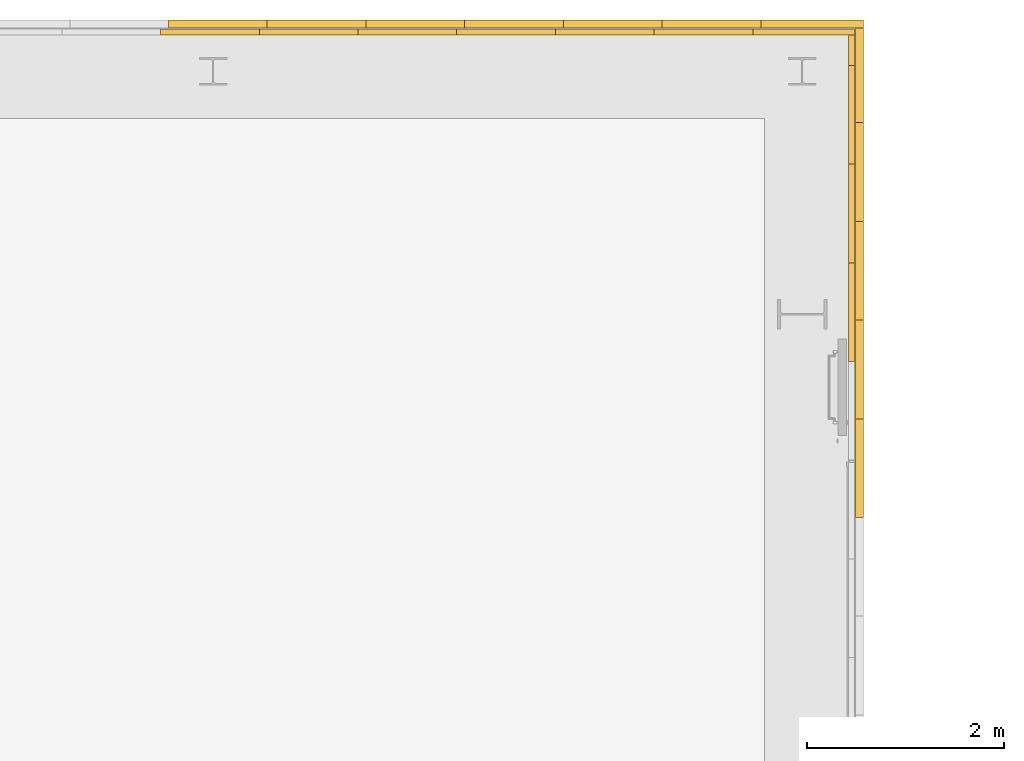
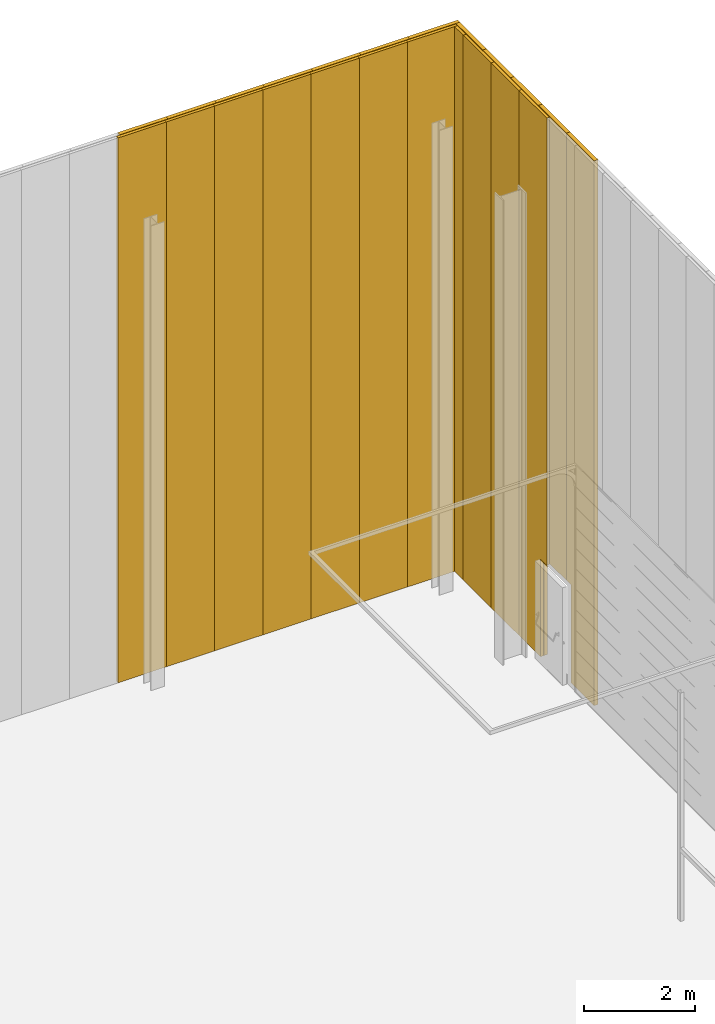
# One storey, part 250 of 302: 23 curtain walls, 3 openings, 4 elements without a shape of their own.
"""IFC2X3 building model written with IfcOpenShell, lengths in metres."""

import ifcopenshell
import ifcopenshell.guid

model = None  # the IFC model being written
_history = None  # IfcOwnerHistory: only IFC2X3 demands one
_inside = {}  # id of a spatial element -> (the spatial element, [elements in it])
_under = {}  # id of a project, library or spatial element -> (it, [spatial elements below it])
_declared = {}  # id of a project -> (the project, [libraries it declares])
_typed = {}  # id of a type object -> (the type object, [elements of that type])
_made_of = {}  # id of a material, layer set ... -> (it, [elements and type objects made of it])


def new_model(schema):
    """Start an empty IFC model of exactly this schema.

    Asked for "IFC4X3", IfcOpenShell would pick the latest addendum, in which some entities
    have other attributes; the version numbers below select the first issue.
    IFC2X3 requires an IfcOwnerHistory on every rooted entity: one is made here for all.
    """
    global model, _history
    if schema == "IFC4X3":
        model = ifcopenshell.file(schema_version=(4, 3, 0, 0))
    else:
        model = ifcopenshell.file(schema=schema)
    _inside.clear()
    _under.clear()
    _declared.clear()
    _typed.clear()
    _made_of.clear()
    _history = None
    if model.schema == "IFC2X3":
        org = make("IfcOrganization", Name="unknown")
        user = make(
            "IfcPersonAndOrganization",
            ThePerson=make("IfcPerson", FamilyName="unknown"),
            TheOrganization=org,
        )
        app = make(
            "IfcApplication",
            ApplicationDeveloper=org,
            Version="unknown",
            ApplicationFullName="unknown",
            ApplicationIdentifier="unknown",
        )
        _history = make(
            "IfcOwnerHistory",
            OwningUser=user,
            OwningApplication=app,
            ChangeAction="ADDED",
            CreationDate=0,
        )
    return model


def make(cls, **values):
    """One entity of the class cls with the attributes given. An attribute that is None is left unset."""
    return model.create_entity(
        cls, **{name: value for name, value in values.items() if value is not None}
    )


def entity(cls, *values):
    """Any entity or typed value of the class cls, its attributes in the order of the schema. None: left unset."""
    e = model.create_entity(cls)
    for i, value in enumerate(values):
        if value is not None:
            e[i] = value
    return e


def rooted(cls, **values):
    """An entity with a GlobalId (a new one), such as an element, a storey or a relation."""
    return make(cls, GlobalId=ifcopenshell.guid.new(), OwnerHistory=_history, **values)


def si_unit(unit_type, name, prefix=None):
    """IfcSIUnit, for example si_unit("LENGTHUNIT", "METRE", prefix="MILLI")."""
    return make("IfcSIUnit", UnitType=unit_type, Prefix=prefix, Name=name)


def converted_unit(unit_type, name, factor, base, dimensions=None, offset=None):
    """IfcConversionBasedUnit, such as the inch: factor (a typed value) times the base unit."""
    return make(
        "IfcConversionBasedUnit"
        if offset is None
        else "IfcConversionBasedUnitWithOffset",
        ConversionOffset=offset,
        Dimensions=None
        if dimensions is None
        else entity("IfcDimensionalExponents", *dimensions),
        UnitType=unit_type,
        Name=name,
        ConversionFactor=make(
            "IfcMeasureWithUnit", ValueComponent=factor, UnitComponent=base
        ),
    )


def derived_unit(unit_type, elements):
    """IfcDerivedUnit: a product of units, each with its exponent."""
    return make(
        "IfcDerivedUnit",
        Elements=[
            make("IfcDerivedUnitElement", Unit=unit, Exponent=power)
            for unit, power in elements
        ],
        UnitType=unit_type,
    )


def assignment(units):
    """IfcUnitAssignment: the units of a project."""
    return None if units is None else make("IfcUnitAssignment", Units=units)


def point(xyz):
    """IfcCartesianPoint."""
    return None if xyz is None else make("IfcCartesianPoint", Coordinates=xyz)


def direction(xyz):
    """IfcDirection."""
    return None if xyz is None else make("IfcDirection", DirectionRatios=xyz)


def frame(location, z_axis=None, x_axis=None):
    """IfcAxis2Placement3D, a coordinate frame: its origin and axes. An axis left out is left unset."""
    return make(
        "IfcAxis2Placement3D",
        Location=point(location),
        Axis=direction(z_axis),
        RefDirection=direction(x_axis),
    )


def frame_2d(location, x_axis=None):
    """IfcAxis2Placement2D, a coordinate frame in the plane: its origin and x axis."""
    return make(
        "IfcAxis2Placement2D", Location=point(location), RefDirection=direction(x_axis)
    )


def origin():
    """The frame at (0, 0, 0) with its axes left unset."""
    return frame((0.0, 0.0, 0.0))


def place(relative_to, where):
    """IfcLocalPlacement: puts the frame where relative to a parent placement (None: the world)."""
    return make(
        "IfcLocalPlacement", PlacementRelTo=relative_to, RelativePlacement=where
    )


def context(
    kind, dimensions, precision=None, world=None, true_north=None, identifier=None
):
    """IfcGeometricRepresentationContext, for example the 3D "Model" context."""
    return make(
        "IfcGeometricRepresentationContext",
        ContextIdentifier=identifier,
        ContextType=kind,
        CoordinateSpaceDimension=dimensions,
        Precision=precision,
        WorldCoordinateSystem=world,
        TrueNorth=true_north,
    )


def subcontext(parent, identifier, kind, view, scale=None):
    """IfcGeometricRepresentationSubContext, for example "Body" below "Model"."""
    return make(
        "IfcGeometricRepresentationSubContext",
        ContextIdentifier=identifier,
        ContextType=kind,
        ParentContext=parent,
        TargetScale=scale,
        TargetView=view,
    )


def project(units=None, contexts=None):
    """IfcProject with its units and contexts."""
    return rooted(
        "IfcProject",
        Name="project",
        RepresentationContexts=contexts,
        UnitsInContext=assignment(units),
    )


def spatial(cls, under=None, at=None, **own):
    """A site, building, storey or space (cls), placed at a placement, below another one or the project."""
    s = rooted(cls, ObjectPlacement=at, **own)
    if under is not None:
        _under.setdefault(under.id(), (under, []))[1].append(s)
    return s


def profile(cls, at=None, kind="AREA", **sizes):
    """A parametric profile (cls). Its sizes go by their IFC names, for example OverallWidth=200.0."""
    return make(cls, ProfileType=kind, Position=at, **sizes)


def rectangle(**sizes):
    """IfcRectangleProfileDef."""
    return profile("IfcRectangleProfileDef", **sizes)


def extrude(swept, where, along, depth):
    """IfcExtrudedAreaSolid: the profile swept, set in the frame where, extruded along a direction by depth."""
    return make(
        "IfcExtrudedAreaSolid",
        SweptArea=swept,
        Position=where,
        ExtrudedDirection=direction(along),
        Depth=depth,
    )


def shape(context_of_items, identifier, shape_type, items):
    """IfcShapeRepresentation: the items that make up one representation, for example the "Body"."""
    return make(
        "IfcShapeRepresentation",
        ContextOfItems=context_of_items,
        RepresentationIdentifier=identifier,
        RepresentationType=shape_type,
        Items=items,
    )


def material(Name=None, Category=None):
    """IfcMaterial."""
    return make("IfcMaterial", Name=Name, Category=Category)


def layer(
    of_material, thickness, ventilated=None, Name=None, Category=None, Priority=None
):
    """IfcMaterialLayer: one layer of a wall or slab, of a material (None: an air gap)."""
    return make(
        "IfcMaterialLayer",
        Material=of_material,
        LayerThickness=thickness,
        IsVentilated=ventilated,
        Name=Name,
        Category=Category,
        Priority=Priority,
    )


def layer_set(layers, Name=None):
    """IfcMaterialLayerSet."""
    return make("IfcMaterialLayerSet", MaterialLayers=layers, LayerSetName=Name)


def layer_usage(for_layer_set, set_direction, sense, offset, extent=None):
    """IfcMaterialLayerSetUsage: how a layer set lies in its element."""
    return make(
        "IfcMaterialLayerSetUsage",
        ForLayerSet=for_layer_set,
        LayerSetDirection=set_direction,
        DirectionSense=sense,
        OffsetFromReferenceLine=offset,
        ReferenceExtent=extent,
    )


def made_of(thing, what):
    """Note that an element or type object is made of a material, layer set ...; save() writes the relation."""
    if what is not None:
        _made_of.setdefault(what.id(), (what, []))[1].append(thing)
    return thing


def type_object(cls, material=None, **own):
    """A type object (cls), such as IfcWallType, which elements share."""
    return made_of(rooted(cls, **own), material)


def element(
    cls,
    number,
    at=None,
    inside=None,
    cuts=None,
    type_object=None,
    material=None,
    context=None,
    identifier="Body",
    shape_type=None,
    held_by="IfcProductDefinitionShape",
    body=None,
    shapes=None,
    **own,
):
    """One element of the class cls, such as IfcWall. Its Tag is "e" and its number.

    at: its placement. inside: the storey or other place that contains it. cuts: it is an
    opening in that element (IfcRelVoidsElement). A single representation is given by context,
    identifier, shape_type and body (its items); several are given by shapes. held_by: the class
    of the entity that holds the representations. save() writes the other relations.
    """
    e = rooted(cls, Tag="e%d" % number, ObjectPlacement=at, **own)
    if body is not None:
        shapes = [shape(context, identifier, shape_type, body)]
    if shapes is not None:
        e.Representation = make(held_by, Representations=shapes)
    if inside is not None:
        _inside.setdefault(inside.id(), (inside, []))[1].append(e)
    if cuts is not None:
        rooted(
            "IfcRelVoidsElement", RelatingBuildingElement=cuts, RelatedOpeningElement=e
        )
    if type_object is not None:
        _typed.setdefault(type_object.id(), (type_object, []))[1].append(e)
    return made_of(e, material)


def aggregate(whole, parts):
    """IfcRelAggregates: a whole, such as a stair, and the parts it consists of."""
    return rooted("IfcRelAggregates", RelatingObject=whole, RelatedObjects=parts)


def save(model, path):
    """Write the relations noted so far, then the file.

    IfcRelAggregates (storeys below a building ...), IfcRelContainedInSpatialStructure (elements
    in a storey), IfcRelDefinesByType, IfcRelAssociatesMaterial and IfcRelDeclares: one each for
    every whole, place, type object, material and project.
    """
    for whole, parts in _under.values():
        aggregate(whole, parts)
    for where, things in _inside.values():
        rooted(
            "IfcRelContainedInSpatialStructure",
            RelatedElements=things,
            RelatingStructure=where,
        )
    for kind, things in _typed.values():
        rooted("IfcRelDefinesByType", RelatedObjects=things, RelatingType=kind)
    for what, things in _made_of.values():
        rooted("IfcRelAssociatesMaterial", RelatedObjects=things, RelatingMaterial=what)
    for by, libraries in _declared.values():
        rooted("IfcRelDeclares", RelatingContext=by, RelatedDefinitions=libraries)
    model.write(path)


model = new_model("IFC2X3")

# Units and contexts
model_context = context("Model", 3, precision=1e-05, world=origin(), true_north=direction((6.12303176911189e-17, 1.0)))
body_context = subcontext(model_context, "Body", "Model", "MODEL_VIEW")
ifc_project = project(units=[si_unit("LENGTHUNIT", "METRE"), si_unit("AREAUNIT", "SQUARE_METRE"), si_unit("VOLUMEUNIT", "CUBIC_METRE"), converted_unit("PLANEANGLEUNIT", "DEGREE", entity("IfcRatioMeasure", 0.0174532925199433), si_unit("PLANEANGLEUNIT", "RADIAN"), dimensions=[0, 0, 0, 0, 0, 0, 0]), si_unit("MASSUNIT", "GRAM", prefix="KILO"), derived_unit("MASSDENSITYUNIT", [(si_unit("MASSUNIT", "GRAM", prefix="KILO"), 1), (si_unit("LENGTHUNIT", "METRE"), -3)]), derived_unit("MOMENTOFINERTIAUNIT", [(si_unit("LENGTHUNIT", "METRE"), 4)]), si_unit("TIMEUNIT", "SECOND"), si_unit("FREQUENCYUNIT", "HERTZ"), si_unit("THERMODYNAMICTEMPERATUREUNIT", "DEGREE_CELSIUS"), derived_unit("THERMALTRANSMITTANCEUNIT", [(si_unit("MASSUNIT", "GRAM", prefix="KILO"), 1), (si_unit("THERMODYNAMICTEMPERATUREUNIT", "KELVIN"), -1), (si_unit("TIMEUNIT", "SECOND"), -3)]), derived_unit("VOLUMETRICFLOWRATEUNIT", [(si_unit("LENGTHUNIT", "METRE"), 3), (si_unit("TIMEUNIT", "SECOND"), -1)]), si_unit("ELECTRICCURRENTUNIT", "AMPERE"), si_unit("ELECTRICVOLTAGEUNIT", "VOLT"), si_unit("POWERUNIT", "WATT"), si_unit("FORCEUNIT", "NEWTON", prefix="KILO"), si_unit("ILLUMINANCEUNIT", "LUX"), si_unit("LUMINOUSFLUXUNIT", "LUMEN"), si_unit("LUMINOUSINTENSITYUNIT", "CANDELA"), derived_unit("USERDEFINED", [(si_unit("MASSUNIT", "GRAM", prefix="KILO"), -1), (si_unit("LENGTHUNIT", "METRE"), -2), (si_unit("TIMEUNIT", "SECOND"), 3), (si_unit("LUMINOUSFLUXUNIT", "LUMEN"), 1)]), derived_unit("LINEARVELOCITYUNIT", [(si_unit("LENGTHUNIT", "METRE"), 1), (si_unit("TIMEUNIT", "SECOND"), -1)]), si_unit("PRESSUREUNIT", "PASCAL"), derived_unit("USERDEFINED", [(si_unit("LENGTHUNIT", "METRE"), -2), (si_unit("MASSUNIT", "GRAM", prefix="KILO"), 1), (si_unit("TIMEUNIT", "SECOND"), -2)]), derived_unit("LINEARFORCEUNIT", [(si_unit("MASSUNIT", "GRAM", prefix="KILO"), 1), (si_unit("LENGTHUNIT", "METRE"), 1), (si_unit("TIMEUNIT", "SECOND"), -2), (si_unit("LENGTHUNIT", "METRE"), -1)]), derived_unit("PLANARFORCEUNIT", [(si_unit("MASSUNIT", "GRAM", prefix="KILO"), 1), (si_unit("LENGTHUNIT", "METRE"), 1), (si_unit("TIMEUNIT", "SECOND"), -2), (si_unit("LENGTHUNIT", "METRE"), -2)])], contexts=[model_context])

# Site, building, storey
site_placement = place(None, origin())
site = spatial("IfcSite", under=ifc_project, at=site_placement, Name="Default", CompositionType="ELEMENT")
building_placement = place(site_placement, origin())
building = spatial("IfcBuilding", under=site, at=building_placement, CompositionType="ELEMENT")
storey_placement = place(building_placement, frame((0.0, 0.0, -1.3)))
storey = spatial("IfcBuildingStorey", under=building, at=storey_placement, Name="00_EG", CompositionType="ELEMENT", Elevation=-1.3)

# Curtain walls
curtain_wall_type_1 = type_object("IfcCurtainWallType", PredefinedType="NOTDEFINED")
curtain_wall_1_placement = place(storey_placement, frame((0.0, 0.0, 1.3)))
curtain_wall_1 = element("IfcCurtainWall", 1, at=curtain_wall_1_placement, inside=storey, type_object=curtain_wall_type_1)
ifc_material_1 = material(Name="Prepainted_Steel-ArcelorMittal_Construction_HAIRULTRA-35-CORAL-4309-[RAL_3000]")
ifc_layer_1 = layer(ifc_material_1, 0.01)
ifc_material_2 = material(Name="ArcelorMittal-MineralWool")
ifc_layer_2 = layer(ifc_material_2, 0.06)
ifc_layer_3 = layer(ifc_material_1, 0.01)
ifc_layer_set_1 = layer_set([ifc_layer_1, ifc_layer_2, ifc_layer_3], Name="Fassade:Sandwichpaneele Gebäude B 80mm")
ifc_layer_usage_1 = layer_usage(ifc_layer_set_1, "AXIS2", "NEGATIVE", 0.04)
curtain_wall_type_2 = type_object("IfcCurtainWallType", Name="Basiswand:Sandwichpaneele d = 8cm aussen", PredefinedType="NOTDEFINED", material=ifc_layer_set_1)
curtain_wall_2_placement = place(storey_placement, frame((-177.270111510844, 76.168088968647, 1.27), z_axis=(0.0, 0.0, 1.0), x_axis=(-1.0, 0.0, 0.0)))
curtain_wall_2 = element("IfcCurtainWall", 2, at=curtain_wall_2_placement, type_object=curtain_wall_type_2, material=ifc_layer_usage_1, Name="Basiswand:Sandwichpaneele d = 8cm aussen", ObjectType="Basiswand:Sandwichpaneele d = 8cm aussen", context=body_context, shape_type="SweptSolid", body=[
    extrude(rectangle(XDim=1.04000000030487, YDim=0.0799999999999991, at=frame_2d((0.520000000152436, 0.0), x_axis=(-1.0, 0.0))), origin(), (0.0, 0.0, 1.0), 11.9314),
])
ifc_layer_usage_2 = layer_usage(ifc_layer_set_1, "AXIS2", "NEGATIVE", 0.04)
curtain_wall_3_placement = place(storey_placement, frame((-178.310111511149, 76.168088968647, 1.27), z_axis=(0.0, 0.0, 1.0), x_axis=(-1.0, 0.0, 0.0)))
curtain_wall_3 = element("IfcCurtainWall", 3, at=curtain_wall_3_placement, type_object=curtain_wall_type_2, material=ifc_layer_usage_2, Name="Basiswand:Sandwichpaneele d = 8cm aussen", ObjectType="Basiswand:Sandwichpaneele d = 8cm aussen", context=body_context, shape_type="SweptSolid", body=[
    extrude(rectangle(XDim=0.999999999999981, YDim=0.0799999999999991, at=frame_2d((0.49999999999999, 0.0), x_axis=(-1.0, 0.0))), origin(), (0.0, 0.0, 1.0), 11.9314),
])
ifc_layer_usage_3 = layer_usage(ifc_layer_set_1, "AXIS2", "NEGATIVE", 0.04)
curtain_wall_4_placement = place(storey_placement, frame((-179.310111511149, 76.168088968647, 1.27), z_axis=(0.0, 0.0, 1.0), x_axis=(-1.0, 0.0, 0.0)))
curtain_wall_4 = element("IfcCurtainWall", 4, at=curtain_wall_4_placement, type_object=curtain_wall_type_2, material=ifc_layer_usage_3, Name="Basiswand:Sandwichpaneele d = 8cm aussen", ObjectType="Basiswand:Sandwichpaneele d = 8cm aussen", context=body_context, shape_type="SweptSolid", body=[
    extrude(rectangle(XDim=1.00000000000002, YDim=0.0799999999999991, at=frame_2d((0.500000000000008, 0.0), x_axis=(-1.0, 0.0))), origin(), (0.0, 0.0, 1.0), 11.9314),
])
ifc_layer_usage_4 = layer_usage(ifc_layer_set_1, "AXIS2", "NEGATIVE", 0.04)
curtain_wall_5_placement = place(storey_placement, frame((-180.310111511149, 76.168088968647, 1.27), z_axis=(0.0, 0.0, 1.0), x_axis=(-1.0, 0.0, 0.0)))
curtain_wall_5 = element("IfcCurtainWall", 5, at=curtain_wall_5_placement, type_object=curtain_wall_type_2, material=ifc_layer_usage_4, Name="Basiswand:Sandwichpaneele d = 8cm aussen", ObjectType="Basiswand:Sandwichpaneele d = 8cm aussen", context=body_context, shape_type="SweptSolid", body=[
    extrude(rectangle(XDim=0.999999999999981, YDim=0.0799999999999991, at=frame_2d((0.49999999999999, 0.0), x_axis=(-1.0, 0.0))), origin(), (0.0, 0.0, 1.0), 11.9314),
])
ifc_layer_usage_5 = layer_usage(ifc_layer_set_1, "AXIS2", "NEGATIVE", 0.04)
curtain_wall_6_placement = place(storey_placement, frame((-181.310111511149, 76.168088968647, 1.27), z_axis=(0.0, 0.0, 1.0), x_axis=(-1.0, 0.0, 0.0)))
curtain_wall_6 = element("IfcCurtainWall", 6, at=curtain_wall_6_placement, type_object=curtain_wall_type_2, material=ifc_layer_usage_5, Name="Basiswand:Sandwichpaneele d = 8cm aussen", ObjectType="Basiswand:Sandwichpaneele d = 8cm aussen", context=body_context, shape_type="SweptSolid", body=[
    extrude(rectangle(XDim=1.00000000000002, YDim=0.0799999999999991, at=frame_2d((0.500000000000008, 0.0), x_axis=(-1.0, 0.0))), origin(), (0.0, 0.0, 1.0), 11.9314),
])
ifc_layer_usage_6 = layer_usage(ifc_layer_set_1, "AXIS2", "NEGATIVE", 0.04)
curtain_wall_7_placement = place(storey_placement, frame((-182.310111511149, 76.168088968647, 1.27), z_axis=(0.0, 0.0, 1.0), x_axis=(-1.0, 0.0, 0.0)))
curtain_wall_7 = element("IfcCurtainWall", 7, at=curtain_wall_7_placement, type_object=curtain_wall_type_2, material=ifc_layer_usage_6, Name="Basiswand:Sandwichpaneele d = 8cm aussen", ObjectType="Basiswand:Sandwichpaneele d = 8cm aussen", context=body_context, shape_type="SweptSolid", body=[
    extrude(rectangle(XDim=0.999999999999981, YDim=0.0799999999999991, at=frame_2d((0.49999999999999, 0.0), x_axis=(-1.0, 0.0))), origin(), (0.0, 0.0, 1.0), 11.9314),
])
ifc_layer_usage_7 = layer_usage(ifc_layer_set_1, "AXIS2", "NEGATIVE", 0.04)
curtain_wall_8_placement = place(storey_placement, frame((-183.310111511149, 76.168088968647, 1.27), z_axis=(0.0, 0.0, 1.0), x_axis=(-1.0, 0.0, 0.0)))
curtain_wall_8 = element("IfcCurtainWall", 8, at=curtain_wall_8_placement, type_object=curtain_wall_type_2, material=ifc_layer_usage_7, Name="Basiswand:Sandwichpaneele d = 8cm aussen", ObjectType="Basiswand:Sandwichpaneele d = 8cm aussen", context=body_context, shape_type="SweptSolid", body=[
    extrude(rectangle(XDim=1.00000000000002, YDim=0.0799999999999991, at=frame_2d((0.500000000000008, 0.0), x_axis=(-1.0, 0.0))), origin(), (0.0, 0.0, 1.0), 11.9314),
])
aggregate(curtain_wall_1, [curtain_wall_2, curtain_wall_3, curtain_wall_4, curtain_wall_5, curtain_wall_6, curtain_wall_7, curtain_wall_8])

# Curtain walls, openings
curtain_wall_9_placement = place(storey_placement, frame((0.0, 0.0, 1.3)))
curtain_wall_9 = element("IfcCurtainWall", 9, at=curtain_wall_9_placement, inside=storey, type_object=curtain_wall_type_1)
ifc_layer_usage_8 = layer_usage(ifc_layer_set_1, "AXIS2", "POSITIVE", -0.04)
curtain_wall_10_placement = place(storey_placement, frame((-177.310111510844, 76.128088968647, 1.27), z_axis=(0.0, 0.0, 1.0), x_axis=(0.0, -1.0, 0.0)))
curtain_wall_10 = element("IfcCurtainWall", 10, at=curtain_wall_10_placement, type_object=curtain_wall_type_2, material=ifc_layer_usage_8, Name="Basiswand:Sandwichpaneele d = 8cm aussen", ObjectType="Basiswand:Sandwichpaneele d = 8cm aussen", context=body_context, shape_type="SweptSolid", body=[
    extrude(rectangle(XDim=0.960000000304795, YDim=0.0799999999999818, at=frame_2d((0.480000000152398, 0.0), x_axis=(-1.0, 0.0))), origin(), (0.0, 0.0, 1.0), 11.9314),
])
ifc_layer_usage_9 = layer_usage(ifc_layer_set_1, "AXIS2", "POSITIVE", -0.04)
curtain_wall_11_placement = place(storey_placement, frame((-177.310111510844, 75.1680889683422, 1.27), z_axis=(0.0, 0.0, 1.0), x_axis=(0.0, -1.0, 0.0)))
curtain_wall_11 = element("IfcCurtainWall", 11, at=curtain_wall_11_placement, type_object=curtain_wall_type_2, material=ifc_layer_usage_9, Name="Basiswand:Sandwichpaneele d = 8cm aussen", ObjectType="Basiswand:Sandwichpaneele d = 8cm aussen", context=body_context, shape_type="SweptSolid", body=[
    extrude(rectangle(XDim=0.999999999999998, YDim=0.0799999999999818, at=frame_2d((0.499999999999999, 0.0), x_axis=(-1.0, 0.0))), origin(), (0.0, 0.0, 1.0), 11.9314),
])
ifc_layer_usage_10 = layer_usage(ifc_layer_set_1, "AXIS2", "POSITIVE", -0.04)
curtain_wall_12_placement = place(storey_placement, frame((-177.310111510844, 74.1680889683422, 1.27), z_axis=(0.0, 0.0, 1.0), x_axis=(0.0, -1.0, 0.0)))
curtain_wall_12 = element("IfcCurtainWall", 12, at=curtain_wall_12_placement, type_object=curtain_wall_type_2, material=ifc_layer_usage_10, Name="Basiswand:Sandwichpaneele d = 8cm aussen", ObjectType="Basiswand:Sandwichpaneele d = 8cm aussen", context=body_context, shape_type="SweptSolid", body=[
    extrude(rectangle(XDim=1.00000000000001, YDim=0.0799999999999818, at=frame_2d((0.500000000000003, 0.0), x_axis=(-1.0, 0.0))), origin(), (0.0, 0.0, 1.0), 11.9314),
])
ifc_layer_usage_11 = layer_usage(ifc_layer_set_1, "AXIS2", "POSITIVE", -0.04)
curtain_wall_13_placement = place(storey_placement, frame((-177.310111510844, 73.1680889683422, 1.27), z_axis=(0.0, 0.0, 1.0), x_axis=(0.0, -1.0, 0.0)))
curtain_wall_13 = element("IfcCurtainWall", 13, at=curtain_wall_13_placement, type_object=curtain_wall_type_2, material=ifc_layer_usage_11, Name="Basiswand:Sandwichpaneele d = 8cm aussen", ObjectType="Basiswand:Sandwichpaneele d = 8cm aussen", context=body_context, shape_type="SweptSolid", body=[
    extrude(rectangle(XDim=0.999999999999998, YDim=0.0799999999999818, at=frame_2d((0.499999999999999, 0.0), x_axis=(-1.0, 0.0))), origin(), (0.0, 0.0, 1.0), 11.9314),
])
opening_1_placement = place(curtain_wall_13_placement, origin())
opening_1 = element("IfcOpeningElement", 14, at=opening_1_placement, cuts=curtain_wall_13, Name="Basiswand:Sandwichpaneele d = 8cm aussen", ObjectType="Opening", context=body_context, shape_type="SweptSolid", body=[
    extrude(rectangle(XDim=2.16999999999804, YDim=0.980000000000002, at=frame_2d((0.0, 8.65973959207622e-15), x_axis=(1.0, 0.0))), frame((0.679999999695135, -0.129999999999, 1.054999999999), z_axis=(0.0, 1.0, 0.0), x_axis=(0.0, 0.0, -1.0)), (0.0, 0.0, 1.0), 0.169999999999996),
])
ifc_layer_usage_12 = layer_usage(ifc_layer_set_1, "AXIS2", "POSITIVE", -0.04)
curtain_wall_14_placement = place(storey_placement, frame((-177.310111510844, 72.1680889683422, 1.27), z_axis=(0.0, 0.0, 1.0), x_axis=(0.0, -1.0, 0.0)))
curtain_wall_14 = element("IfcCurtainWall", 15, at=curtain_wall_14_placement, type_object=curtain_wall_type_2, material=ifc_layer_usage_12, Name="Basiswand:Sandwichpaneele d = 8cm aussen", ObjectType="Basiswand:Sandwichpaneele d = 8cm aussen", context=body_context, shape_type="SweptSolid", body=[
    extrude(rectangle(XDim=0.999999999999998, YDim=0.0799999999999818, at=frame_2d((0.499999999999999, 0.0), x_axis=(-1.0, 0.0))), origin(), (0.0, 0.0, 1.0), 11.9314),
])
opening_2_placement = place(curtain_wall_14_placement, origin())
opening_2 = element("IfcOpeningElement", 16, at=opening_2_placement, cuts=curtain_wall_14, Name="Basiswand:Sandwichpaneele d = 8cm aussen", ObjectType="Opening", context=body_context, shape_type="SweptSolid", body=[
    extrude(rectangle(XDim=2.16999999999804, YDim=0.980000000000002, at=frame_2d((0.0, 8.65973959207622e-15), x_axis=(1.0, 0.0))), frame((-0.320000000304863, -0.129999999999, 1.054999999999), z_axis=(0.0, 1.0, 0.0), x_axis=(0.0, 0.0, -1.0)), (0.0, 0.0, 1.0), 0.169999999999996),
])
aggregate(curtain_wall_9, [curtain_wall_10, curtain_wall_11, curtain_wall_12, curtain_wall_13, opening_1, curtain_wall_14, opening_2])

# Curtain walls
curtain_wall_type_3 = type_object("IfcCurtainWallType", PredefinedType="NOTDEFINED")
curtain_wall_15_placement = place(storey_placement, frame((0.0, 0.0, 1.3)))
curtain_wall_15 = element("IfcCurtainWall", 17, at=curtain_wall_15_placement, inside=storey, type_object=curtain_wall_type_3)
ifc_layer_4 = layer(ifc_material_1, 0.01)
ifc_layer_5 = layer(ifc_material_2, 0.04)
ifc_layer_6 = layer(ifc_material_1, 0.01)
ifc_layer_set_2 = layer_set([ifc_layer_4, ifc_layer_5, ifc_layer_6], Name="Fassade:Sandwichpaneele Gebäude B 60mm")
ifc_layer_usage_13 = layer_usage(ifc_layer_set_2, "AXIS2", "NEGATIVE", 0.03)
curtain_wall_type_4 = type_object("IfcCurtainWallType", Name="Basiswand:Sandwichpaneele d = 6cm aussen", PredefinedType="NOTDEFINED", material=ifc_layer_set_2)
curtain_wall_16_placement = place(storey_placement, frame((-177.360111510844, 76.088088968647, 1.27), z_axis=(0.0, 0.0, 1.0), x_axis=(-1.0, 0.0, 0.0)))
curtain_wall_16 = element("IfcCurtainWall", 18, at=curtain_wall_16_placement, type_object=curtain_wall_type_4, material=ifc_layer_usage_13, Name="Basiswand:Sandwichpaneele d = 6cm aussen", ObjectType="Basiswand:Sandwichpaneele d = 6cm aussen", context=body_context, shape_type="SweptSolid", body=[
    extrude(rectangle(XDim=1.03000000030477, YDim=0.0600000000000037, at=frame_2d((0.515000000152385, 2.98372437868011e-16), x_axis=(-1.0, 0.0))), origin(), (0.0, 0.0, 1.0), 11.9314),
])
ifc_layer_usage_14 = layer_usage(ifc_layer_set_2, "AXIS2", "NEGATIVE", 0.03)
curtain_wall_17_placement = place(storey_placement, frame((-178.390111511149, 76.088088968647, 1.27), z_axis=(0.0, 0.0, 1.0), x_axis=(-1.0, 0.0, 0.0)))
curtain_wall_17 = element("IfcCurtainWall", 19, at=curtain_wall_17_placement, type_object=curtain_wall_type_4, material=ifc_layer_usage_14, Name="Basiswand:Sandwichpaneele d = 6cm aussen", ObjectType="Basiswand:Sandwichpaneele d = 6cm aussen", context=body_context, shape_type="SweptSolid", body=[
    extrude(rectangle(XDim=0.999999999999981, YDim=0.0600000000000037, at=frame_2d((0.49999999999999, 2.89698820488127e-16), x_axis=(-1.0, 0.0))), origin(), (0.0, 0.0, 1.0), 11.9314),
])
ifc_layer_usage_15 = layer_usage(ifc_layer_set_2, "AXIS2", "NEGATIVE", 0.03)
curtain_wall_18_placement = place(storey_placement, frame((-179.390111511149, 76.088088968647, 1.27), z_axis=(0.0, 0.0, 1.0), x_axis=(-1.0, 0.0, 0.0)))
curtain_wall_18 = element("IfcCurtainWall", 20, at=curtain_wall_18_placement, type_object=curtain_wall_type_4, material=ifc_layer_usage_15, Name="Basiswand:Sandwichpaneele d = 6cm aussen", ObjectType="Basiswand:Sandwichpaneele d = 6cm aussen", context=body_context, shape_type="SweptSolid", body=[
    extrude(rectangle(XDim=1.00000000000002, YDim=0.0600000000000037, at=frame_2d((0.500000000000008, 2.89698820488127e-16), x_axis=(-1.0, 0.0))), origin(), (0.0, 0.0, 1.0), 11.9314),
])
ifc_layer_usage_16 = layer_usage(ifc_layer_set_2, "AXIS2", "NEGATIVE", 0.03)
curtain_wall_19_placement = place(storey_placement, frame((-180.390111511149, 76.088088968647, 1.27), z_axis=(0.0, 0.0, 1.0), x_axis=(-1.0, 0.0, 0.0)))
curtain_wall_19 = element("IfcCurtainWall", 21, at=curtain_wall_19_placement, type_object=curtain_wall_type_4, material=ifc_layer_usage_16, Name="Basiswand:Sandwichpaneele d = 6cm aussen", ObjectType="Basiswand:Sandwichpaneele d = 6cm aussen", context=body_context, shape_type="SweptSolid", body=[
    extrude(rectangle(XDim=0.999999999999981, YDim=0.0600000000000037, at=frame_2d((0.49999999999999, 2.89698820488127e-16), x_axis=(-1.0, 0.0))), origin(), (0.0, 0.0, 1.0), 11.9314),
])
ifc_layer_usage_17 = layer_usage(ifc_layer_set_2, "AXIS2", "NEGATIVE", 0.03)
curtain_wall_20_placement = place(storey_placement, frame((-181.390111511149, 76.088088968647, 1.27), z_axis=(0.0, 0.0, 1.0), x_axis=(-1.0, 0.0, 0.0)))
curtain_wall_20 = element("IfcCurtainWall", 22, at=curtain_wall_20_placement, type_object=curtain_wall_type_4, material=ifc_layer_usage_17, Name="Basiswand:Sandwichpaneele d = 6cm aussen", ObjectType="Basiswand:Sandwichpaneele d = 6cm aussen", context=body_context, shape_type="SweptSolid", body=[
    extrude(rectangle(XDim=1.00000000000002, YDim=0.0600000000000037, at=frame_2d((0.500000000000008, 2.89698820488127e-16), x_axis=(-1.0, 0.0))), origin(), (0.0, 0.0, 1.0), 11.9314),
])
ifc_layer_usage_18 = layer_usage(ifc_layer_set_2, "AXIS2", "NEGATIVE", 0.03)
curtain_wall_21_placement = place(storey_placement, frame((-182.390111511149, 76.088088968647, 1.27), z_axis=(0.0, 0.0, 1.0), x_axis=(-1.0, 0.0, 0.0)))
curtain_wall_21 = element("IfcCurtainWall", 23, at=curtain_wall_21_placement, type_object=curtain_wall_type_4, material=ifc_layer_usage_18, Name="Basiswand:Sandwichpaneele d = 6cm aussen", ObjectType="Basiswand:Sandwichpaneele d = 6cm aussen", context=body_context, shape_type="SweptSolid", body=[
    extrude(rectangle(XDim=0.999999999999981, YDim=0.0600000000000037, at=frame_2d((0.49999999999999, 2.89698820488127e-16), x_axis=(-1.0, 0.0))), origin(), (0.0, 0.0, 1.0), 11.9314),
])
ifc_layer_usage_19 = layer_usage(ifc_layer_set_2, "AXIS2", "NEGATIVE", 0.03)
curtain_wall_22_placement = place(storey_placement, frame((-183.390111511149, 76.088088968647, 1.27), z_axis=(0.0, 0.0, 1.0), x_axis=(-1.0, 0.0, 0.0)))
curtain_wall_22 = element("IfcCurtainWall", 24, at=curtain_wall_22_placement, type_object=curtain_wall_type_4, material=ifc_layer_usage_19, Name="Basiswand:Sandwichpaneele d = 6cm aussen", ObjectType="Basiswand:Sandwichpaneele d = 6cm aussen", context=body_context, shape_type="SweptSolid", body=[
    extrude(rectangle(XDim=1.00000000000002, YDim=0.0600000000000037, at=frame_2d((0.500000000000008, 2.89698820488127e-16), x_axis=(-1.0, 0.0))), origin(), (0.0, 0.0, 1.0), 11.9314),
])
aggregate(curtain_wall_15, [curtain_wall_16, curtain_wall_17, curtain_wall_18, curtain_wall_19, curtain_wall_20, curtain_wall_21, curtain_wall_22])

# Curtain walls, opening
curtain_wall_23_placement = place(storey_placement, frame((0.0, 0.0, 1.3)))
curtain_wall_23 = element("IfcCurtainWall", 25, at=curtain_wall_23_placement, inside=storey, type_object=curtain_wall_type_3)
ifc_layer_usage_20 = layer_usage(ifc_layer_set_2, "AXIS2", "POSITIVE", -0.03)
curtain_wall_24_placement = place(storey_placement, frame((-177.390111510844, 72.7480889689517, 1.27), z_axis=(0.0, 0.0, 1.0), x_axis=(0.0, 1.0, 0.0)))
curtain_wall_24 = element("IfcCurtainWall", 26, at=curtain_wall_24_placement, type_object=curtain_wall_type_4, material=ifc_layer_usage_20, Name="Basiswand:Sandwichpaneele d = 6cm aussen", ObjectType="Basiswand:Sandwichpaneele d = 6cm aussen", context=body_context, shape_type="SweptSolid", body=[
    extrude(rectangle(XDim=0.999999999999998, YDim=0.0599999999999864, at=frame_2d((0.499999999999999, 0.0), x_axis=(-1.0, 0.0))), origin(), (0.0, 0.0, 1.0), 11.9314),
])
opening_3_placement = place(curtain_wall_24_placement, origin())
opening_3 = element("IfcOpeningElement", 27, at=opening_3_placement, cuts=curtain_wall_24, Name="Basiswand:Sandwichpaneele d = 6cm aussen", ObjectType="Opening", context=body_context, shape_type="SweptSolid", body=[
    extrude(rectangle(XDim=2.16999999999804, YDim=0.979999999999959, at=frame_2d((-5.55111512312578e-16, 2.60069743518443e-14), x_axis=(1.0, 0.0))), frame((-0.260000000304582, -0.120000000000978, 1.054999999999), z_axis=(0.0, 1.0, 0.0), x_axis=(0.0, 0.0, -1.0)), (0.0, 0.0, 1.0), 0.169999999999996),
])
ifc_layer_usage_21 = layer_usage(ifc_layer_set_2, "AXIS2", "POSITIVE", -0.03)
curtain_wall_25_placement = place(storey_placement, frame((-177.390111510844, 73.7480889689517, 1.27), z_axis=(0.0, 0.0, 1.0), x_axis=(0.0, 1.0, 0.0)))
curtain_wall_25 = element("IfcCurtainWall", 28, at=curtain_wall_25_placement, type_object=curtain_wall_type_4, material=ifc_layer_usage_21, Name="Basiswand:Sandwichpaneele d = 6cm aussen", ObjectType="Basiswand:Sandwichpaneele d = 6cm aussen", context=body_context, shape_type="SweptSolid", body=[
    extrude(rectangle(XDim=0.999999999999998, YDim=0.0599999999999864, at=frame_2d((0.499999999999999, 0.0), x_axis=(-1.0, 0.0))), origin(), (0.0, 0.0, 1.0), 11.9314),
])
ifc_layer_usage_22 = layer_usage(ifc_layer_set_2, "AXIS2", "POSITIVE", -0.03)
curtain_wall_26_placement = place(storey_placement, frame((-177.390111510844, 74.7480889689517, 1.27), z_axis=(0.0, 0.0, 1.0), x_axis=(0.0, 1.0, 0.0)))
curtain_wall_26 = element("IfcCurtainWall", 29, at=curtain_wall_26_placement, type_object=curtain_wall_type_4, material=ifc_layer_usage_22, Name="Basiswand:Sandwichpaneele d = 6cm aussen", ObjectType="Basiswand:Sandwichpaneele d = 6cm aussen", context=body_context, shape_type="SweptSolid", body=[
    extrude(rectangle(XDim=0.999999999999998, YDim=0.0599999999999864, at=frame_2d((0.499999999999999, 0.0), x_axis=(-1.0, 0.0))), origin(), (0.0, 0.0, 1.0), 11.9314),
])
ifc_layer_usage_23 = layer_usage(ifc_layer_set_2, "AXIS2", "POSITIVE", -0.03)
curtain_wall_27_placement = place(storey_placement, frame((-177.390111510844, 75.7480889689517, 1.27), z_axis=(0.0, 0.0, 1.0), x_axis=(0.0, 1.0, 0.0)))
curtain_wall_27 = element("IfcCurtainWall", 30, at=curtain_wall_27_placement, type_object=curtain_wall_type_4, material=ifc_layer_usage_23, Name="Basiswand:Sandwichpaneele d = 6cm aussen", ObjectType="Basiswand:Sandwichpaneele d = 6cm aussen", context=body_context, shape_type="SweptSolid", body=[
    extrude(rectangle(XDim=0.309999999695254, YDim=0.0599999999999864, at=frame_2d((0.154999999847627, 0.0), x_axis=(-1.0, 0.0))), origin(), (0.0, 0.0, 1.0), 11.9314),
])
aggregate(curtain_wall_23, [curtain_wall_24, opening_3, curtain_wall_25, curtain_wall_26, curtain_wall_27])

save(model, "model.ifc")
